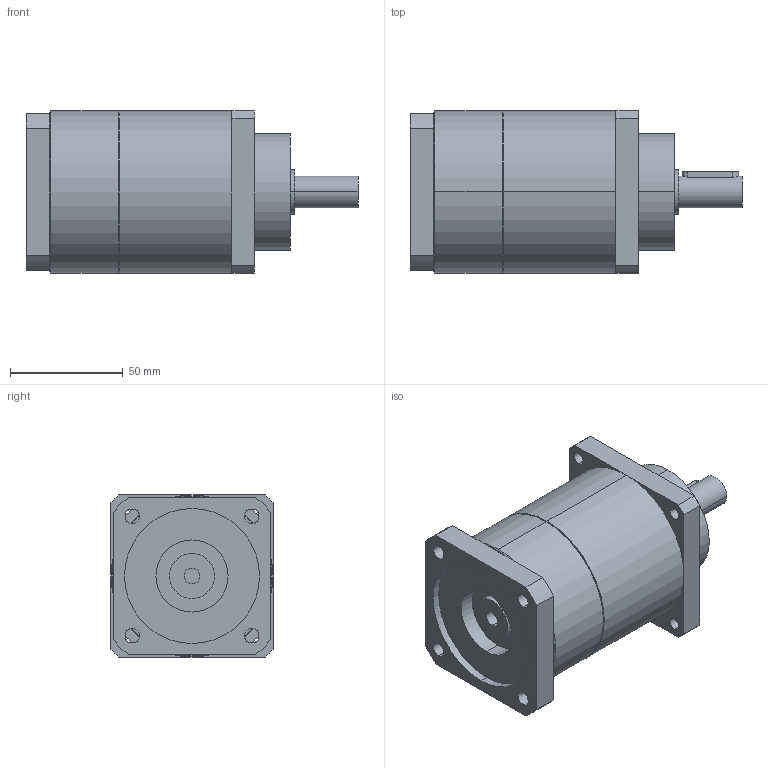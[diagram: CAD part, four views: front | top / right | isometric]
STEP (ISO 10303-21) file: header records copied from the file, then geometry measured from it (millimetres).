
FILE_DESCRIPTION(('CoCreate Modeling STEP Export'),'2;1');
FILE_NAME('GPT75_ig-9-12-16-20-25-28-35-40-50-70-100_14_B5T_7_P04.stp','2014-08-27T13:40:42',(''),(''),'CoCreate Modeling STEP processor for AP214 (Solid Model)','CoCreate Modeling 16.00C 25-Feb-2009 (C) Parametric Technology GmbH','');
FILE_SCHEMA(('AUTOMOTIVE_DESIGN { 1 0 10303 214 1 1 1 1 }'));
Length unit declared in the file: millimetre
Products named in the file (2): GPT75_ig-9-12-16-20-25-28-35-40-50-70-100_14_B5T_7_P04
Assembly tree (1 placements, depth 2):
  GPT75_ig-9-12-16-20-25-28-35-40-50-70-100_14_B5T_7_P04
    GPT75_ig-9-12-16-20-25-28-35-40-50-70-100_14_B5T_7_P04
Bounding box: 147.5 x 72 x 72 mm (x, y, z)
Volume: 452846 mm3; surface area: 43758.4 mm2
Topology: 1 solids, 1 shells, 88 faces, 220 edges, 139 vertices
Faces by surface type: cylinder 46, plane 38, cone 4
Entity records: 2646 total; most frequent: CARTESIAN_POINT 738, ORIENTED_EDGE 440, DIRECTION 334, EDGE_CURVE 220, VERTEX_POINT 139, AXIS2_PLACEMENT_3D 123, EDGE_LOOP 109, VECTOR 88
